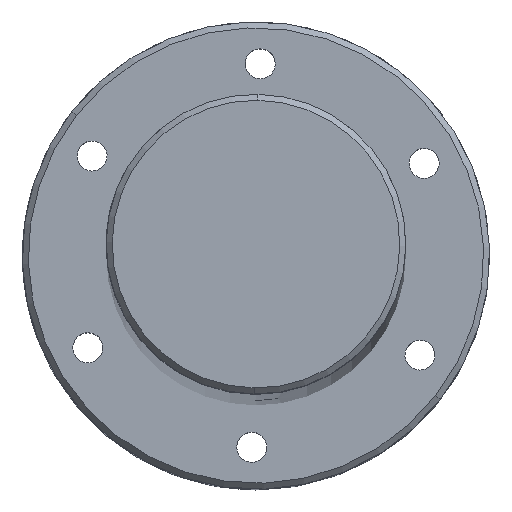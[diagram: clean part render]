
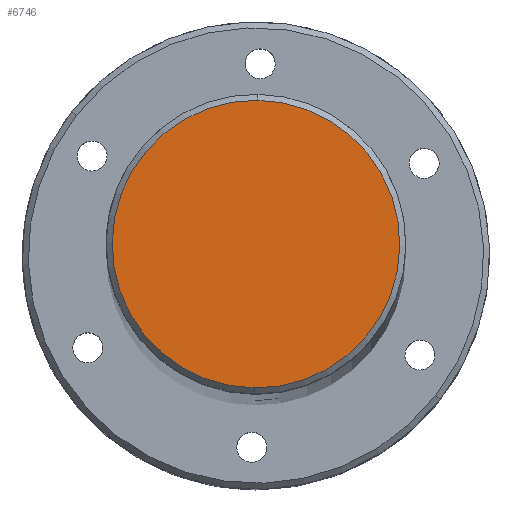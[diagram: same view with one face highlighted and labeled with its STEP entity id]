
A CAD part, top view. The second image highlights one B-rep face of the part: STEP entity #6746.
In plain terms, the highlighted planar face has unit normal (0, 0, 1) as drawn and (-1, 0, 0) by its records, which use the part's own axes.
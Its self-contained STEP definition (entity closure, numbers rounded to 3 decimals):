
#572 = DIRECTION ( 'NONE',  ( 0., 0., -1. ) ) ;
#1548 = ORIENTED_EDGE ( 'NONE', *, *, #11889, .T. ) ;
#2344 = CARTESIAN_POINT ( 'NONE',  ( 0., 0., 0. ) ) ;
#2998 = DIRECTION ( 'NONE',  ( 0., 0., -1. ) ) ;
#3499 = VERTEX_POINT ( 'NONE', #14347 ) ;
#4900 = ORIENTED_EDGE ( 'NONE', *, *, #5169, .T. ) ;
#5169 = EDGE_CURVE ( 'NONE', #15785, #3499, #19440, .T. ) ;
#6746 = ADVANCED_FACE ( 'NONE', ( #9331 ), #11535, .F. ) ;
#8396 = AXIS2_PLACEMENT_3D ( 'NONE', #15035, #13036, #2998 ) ;
#9331 = FACE_OUTER_BOUND ( 'NONE', #17674, .T. ) ;
#10057 = CIRCLE ( 'NONE', #8396, 24. ) ;
#10752 = DIRECTION ( 'NONE',  ( -1., 0., 0. ) ) ;
#11535 = PLANE ( 'NONE',  #18793 ) ;
#11889 = EDGE_CURVE ( 'NONE', #3499, #15785, #10057, .T. ) ;
#13036 = DIRECTION ( 'NONE',  ( -1., 0., 0. ) ) ;
#13217 = DIRECTION ( 'NONE',  ( 0., 0., -1. ) ) ;
#13516 = DIRECTION ( 'NONE',  ( 1., 0., 0. ) ) ;
#14347 = CARTESIAN_POINT ( 'NONE',  ( 0., 0., -24. ) ) ;
#15035 = CARTESIAN_POINT ( 'NONE',  ( 0., 0., 0. ) ) ;
#15785 = VERTEX_POINT ( 'NONE', #21129 ) ;
#16217 = CARTESIAN_POINT ( 'NONE',  ( 0., 0., 0. ) ) ;
#16810 = AXIS2_PLACEMENT_3D ( 'NONE', #2344, #10752, #572 ) ;
#17674 = EDGE_LOOP ( 'NONE', ( #1548, #4900 ) ) ;
#18793 = AXIS2_PLACEMENT_3D ( 'NONE', #16217, #13516, #13217 ) ;
#19440 = CIRCLE ( 'NONE', #16810, 24. ) ;
#21129 = CARTESIAN_POINT ( 'NONE',  ( 0., 0., 24. ) ) ;
